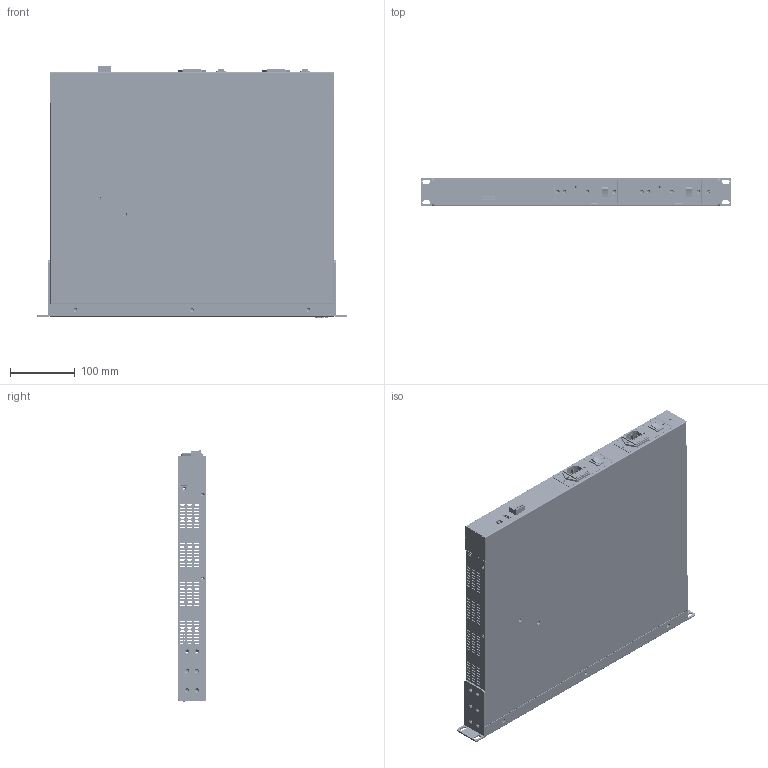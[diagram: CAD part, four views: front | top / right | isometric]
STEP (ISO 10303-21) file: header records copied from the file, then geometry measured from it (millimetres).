
FILE_DESCRIPTION((''),'2;1');
FILE_NAME('3D_ICS-G7526A-4GTXSFP-2XG','2014-08-31T',('Vincent_Huang'),(''),'PRO/ENGINEER BY PARAMETRIC TECHNOLOGY CORPORATION, 2004320','PRO/ENGINEER BY PARAMETRIC TECHNOLOGY CORPORATION, 2004320','');
FILE_SCHEMA(('CONFIG_CONTROL_DESIGN'));
Products named in the file (1): 3D_ICS-G7526A-4GTXSFP-2XG
Bounding box: 480 x 44 x 388.35 mm (x, y, z)
Surface area: 1291369.9 mm2 (no closed solid volume)
Topology: 0 solids, 217 shells, 22578 faces, 63547 edges, 41597 vertices
Faces by surface type: plane 14352, cylinder 7376, extrusion 349, cone 332, torus 106, bspline 48, sphere 15
Entity records: 742975 total; most frequent: CARTESIAN_POINT 149689, ORIENTED_EDGE 126630, DIRECTION 119200, EDGE_CURVE 63460, VECTOR 45260, LINE 44911, VERTEX_POINT 41597, AXIS2_PLACEMENT_3D 36970
